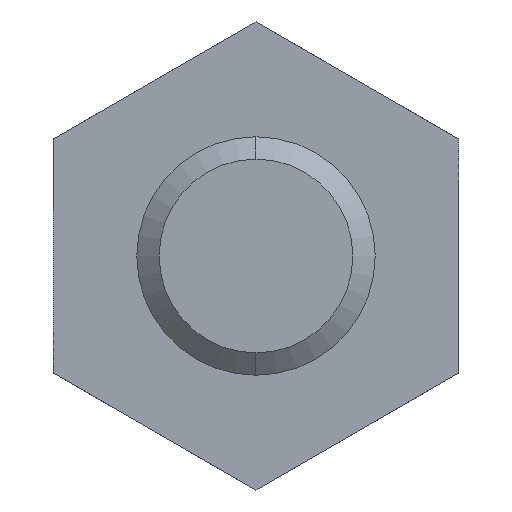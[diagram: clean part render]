
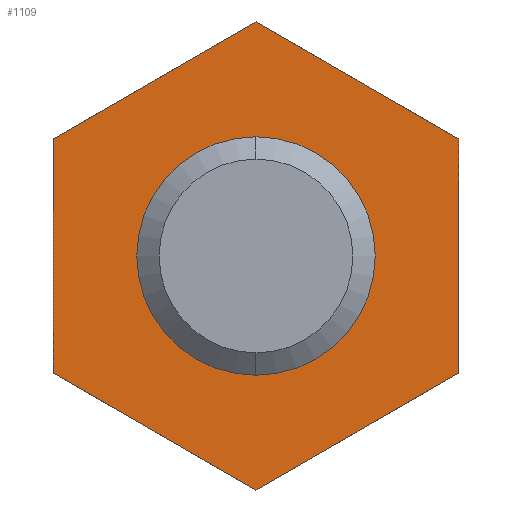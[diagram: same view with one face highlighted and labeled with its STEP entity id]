
A CAD part, front view. The second image highlights one B-rep face of the part: STEP entity #1109.
In plain terms, the highlighted planar face has unit normal (0, -1, 0).
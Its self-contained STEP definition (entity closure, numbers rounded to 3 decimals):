
#4 = VERTEX_POINT ( 'NONE', #1657 ) ;
#20 = EDGE_CURVE ( 'NONE', #4, #21, #1684, .T. ) ;
#21 = VERTEX_POINT ( 'NONE', #1679 ) ;
#611 = VERTEX_POINT ( 'NONE', #2788 ) ;
#613 = EDGE_CURVE ( 'NONE', #627, #611, #2843, .T. ) ;
#627 = VERTEX_POINT ( 'NONE', #2853 ) ;
#629 = EDGE_CURVE ( 'NONE', #639, #627, #2852, .T. ) ;
#639 = VERTEX_POINT ( 'NONE', #2880 ) ;
#641 = EDGE_CURVE ( 'NONE', #642, #639, #2879, .T. ) ;
#642 = VERTEX_POINT ( 'NONE', #2875 ) ;
#656 = EDGE_CURVE ( 'NONE', #669, #642, #2909, .T. ) ;
#669 = VERTEX_POINT ( 'NONE', #2984 ) ;
#671 = EDGE_CURVE ( 'NONE', #681, #669, #2983, .T. ) ;
#681 = VERTEX_POINT ( 'NONE', #2961 ) ;
#683 = EDGE_CURVE ( 'NONE', #611, #681, #3024, .T. ) ;
#1036 = EDGE_LOOP ( 'NONE', ( #1037, #1038 ) ) ;
#1037 = ORIENTED_EDGE ( 'NONE', *, *, #20, .T. ) ;
#1038 = ORIENTED_EDGE ( 'NONE', *, *, #1039, .T. ) ;
#1039 = EDGE_CURVE ( 'NONE', #21, #4, #3560, .T. ) ;
#1040 = EDGE_LOOP ( 'NONE', ( #1041, #1042, #1043, #1044, #1096, #1097 ) ) ;
#1041 = ORIENTED_EDGE ( 'NONE', *, *, #641, .T. ) ;
#1042 = ORIENTED_EDGE ( 'NONE', *, *, #629, .T. ) ;
#1043 = ORIENTED_EDGE ( 'NONE', *, *, #613, .T. ) ;
#1044 = ORIENTED_EDGE ( 'NONE', *, *, #683, .T. ) ;
#1096 = ORIENTED_EDGE ( 'NONE', *, *, #671, .T. ) ;
#1097 = ORIENTED_EDGE ( 'NONE', *, *, #656, .T. ) ;
#1109 = ADVANCED_FACE ( 'NONE', ( #3645, #3641 ), #3640, .T. ) ;
#1657 = CARTESIAN_POINT ( 'NONE',  ( -5., 40., 0. ) ) ;
#1679 = CARTESIAN_POINT ( 'NONE',  ( 5., 40., 0. ) ) ;
#1680 = DIRECTION ( 'NONE',  ( -1., 0., 0. ) ) ;
#1681 = DIRECTION ( 'NONE',  ( 0., 1., 0. ) ) ;
#1682 = CARTESIAN_POINT ( 'NONE',  ( 0., 40., 0. ) ) ;
#1683 = AXIS2_PLACEMENT_3D ( 'NONE', #1682, #1681, #1680 ) ;
#1684 = CIRCLE ( 'NONE', #1683, 5. ) ;
#2788 = CARTESIAN_POINT ( 'NONE',  ( -8.5, 40., -4.907 ) ) ;
#2840 = DIRECTION ( 'NONE',  ( 0., 0., -1. ) ) ;
#2841 = VECTOR ( 'NONE', #2840, 1000. ) ;
#2842 = CARTESIAN_POINT ( 'NONE',  ( -8.5, 40., 4.907 ) ) ;
#2843 = LINE ( 'NONE', #2842, #2841 ) ;
#2849 = DIRECTION ( 'NONE',  ( -0.866, 0., -0.5 ) ) ;
#2850 = VECTOR ( 'NONE', #2849, 1000. ) ;
#2851 = CARTESIAN_POINT ( 'NONE',  ( 0., 40., 9.815 ) ) ;
#2852 = LINE ( 'NONE', #2851, #2850 ) ;
#2853 = CARTESIAN_POINT ( 'NONE',  ( -8.5, 40., 4.907 ) ) ;
#2875 = CARTESIAN_POINT ( 'NONE',  ( 8.5, 40., 4.907 ) ) ;
#2876 = DIRECTION ( 'NONE',  ( -0.866, 0., 0.5 ) ) ;
#2877 = VECTOR ( 'NONE', #2876, 1000. ) ;
#2878 = CARTESIAN_POINT ( 'NONE',  ( 8.5, 40., 4.907 ) ) ;
#2879 = LINE ( 'NONE', #2878, #2877 ) ;
#2880 = CARTESIAN_POINT ( 'NONE',  ( 0., 40., 9.815 ) ) ;
#2906 = DIRECTION ( 'NONE',  ( 0., 0., 1. ) ) ;
#2907 = VECTOR ( 'NONE', #2906, 1000. ) ;
#2908 = CARTESIAN_POINT ( 'NONE',  ( 8.5, 40., -4.907 ) ) ;
#2909 = LINE ( 'NONE', #2908, #2907 ) ;
#2961 = CARTESIAN_POINT ( 'NONE',  ( 0., 40., -9.815 ) ) ;
#2980 = DIRECTION ( 'NONE',  ( 0.866, 0., 0.5 ) ) ;
#2981 = VECTOR ( 'NONE', #2980, 1000. ) ;
#2982 = CARTESIAN_POINT ( 'NONE',  ( 0., 40., -9.815 ) ) ;
#2983 = LINE ( 'NONE', #2982, #2981 ) ;
#2984 = CARTESIAN_POINT ( 'NONE',  ( 8.5, 40., -4.907 ) ) ;
#3021 = DIRECTION ( 'NONE',  ( 0.866, 0., -0.5 ) ) ;
#3022 = VECTOR ( 'NONE', #3021, 1000. ) ;
#3023 = CARTESIAN_POINT ( 'NONE',  ( -8.5, 40., -4.907 ) ) ;
#3024 = LINE ( 'NONE', #3023, #3022 ) ;
#3556 = DIRECTION ( 'NONE',  ( -1., 0., 0. ) ) ;
#3557 = DIRECTION ( 'NONE',  ( 0., 1., 0. ) ) ;
#3558 = CARTESIAN_POINT ( 'NONE',  ( 0., 40., 0. ) ) ;
#3559 = AXIS2_PLACEMENT_3D ( 'NONE', #3558, #3557, #3556 ) ;
#3560 = CIRCLE ( 'NONE', #3559, 5. ) ;
#3639 = AXIS2_PLACEMENT_3D ( 'NONE', #3700, #3699, #3698 ) ;
#3640 = PLANE ( 'NONE',  #3639 ) ;
#3641 = FACE_OUTER_BOUND ( 'NONE', #1040, .T. ) ;
#3645 = FACE_BOUND ( 'NONE', #1036, .T. ) ;
#3698 = DIRECTION ( 'NONE',  ( 1., 0., 0. ) ) ;
#3699 = DIRECTION ( 'NONE',  ( 0., -1., 0. ) ) ;
#3700 = CARTESIAN_POINT ( 'NONE',  ( -5., 40., 0. ) ) ;
